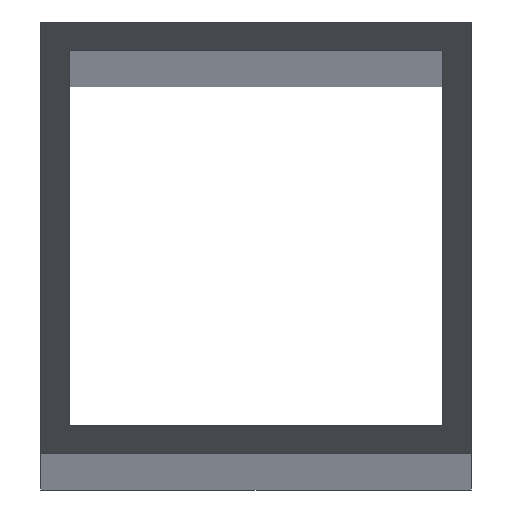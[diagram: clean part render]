
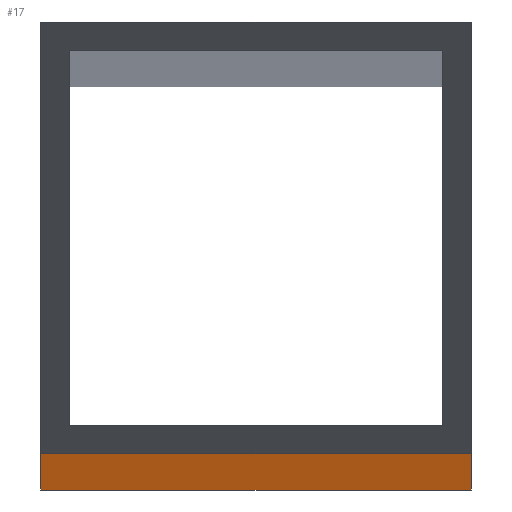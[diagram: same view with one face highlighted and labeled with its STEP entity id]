
A CAD part, top view. The second image highlights one B-rep face of the part: STEP entity #17.
In plain terms, the highlighted planar face has unit normal (0, -1, 0).
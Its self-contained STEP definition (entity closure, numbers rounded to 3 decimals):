
#17 = ADVANCED_FACE('',(#18),#32,.F.);
#18 = FACE_BOUND('',#19,.F.);
#19 = EDGE_LOOP('',(#20,#53,#81,#107));
#20 = ORIENTED_EDGE('',*,*,#21,.F.);
#21 = EDGE_CURVE('',#22,#24,#26,.T.);
#22 = VERTEX_POINT('',#23);
#23 = CARTESIAN_POINT('',(-30.,-30.,-47.032));
#24 = VERTEX_POINT('',#25);
#25 = CARTESIAN_POINT('',(30.,-30.,-47.032));
#26 = SURFACE_CURVE('',#27,(#31,#42),.PCURVE_S1.);
#27 = LINE('',#28,#29);
#28 = CARTESIAN_POINT('',(-15.,-30.,-47.032));
#29 = VECTOR('',#30,1.);
#30 = DIRECTION('',(1.,0.,-0.));
#31 = PCURVE('',#32,#37);
#32 = PLANE('',#33);
#33 = AXIS2_PLACEMENT_3D('',#34,#35,#36);
#34 = CARTESIAN_POINT('',(-30.,-30.,-60.));
#35 = DIRECTION('',(0.,1.,0.));
#36 = DIRECTION('',(1.,0.,0.));
#37 = DEFINITIONAL_REPRESENTATION('',(#38),#41);
#38 = B_SPLINE_CURVE_WITH_KNOTS('',1,(#39,#40),.UNSPECIFIED.,.F.,.F.,(2,
    2),(-15.,45.),.PIECEWISE_BEZIER_KNOTS.);
#39 = CARTESIAN_POINT('',(0.,-12.968));
#40 = CARTESIAN_POINT('',(60.,-12.968));
#41 = ( GEOMETRIC_REPRESENTATION_CONTEXT(2) 
PARAMETRIC_REPRESENTATION_CONTEXT() REPRESENTATION_CONTEXT('2D SPACE',''
  ) );
#42 = PCURVE('',#43,#48);
#43 = PLANE('',#44);
#44 = AXIS2_PLACEMENT_3D('',#45,#46,#47);
#45 = CARTESIAN_POINT('',(0.,-0.,0.));
#46 = DIRECTION('',(0.,-0.843,0.538));
#47 = DIRECTION('',(0.,-0.538,-0.843));
#48 = DEFINITIONAL_REPRESENTATION('',(#49),#52);
#49 = B_SPLINE_CURVE_WITH_KNOTS('',1,(#50,#51),.UNSPECIFIED.,.F.,.F.,(2,
    2),(-15.,45.),.PIECEWISE_BEZIER_KNOTS.);
#50 = CARTESIAN_POINT('',(55.786,-30.));
#51 = CARTESIAN_POINT('',(55.786,30.));
#52 = ( GEOMETRIC_REPRESENTATION_CONTEXT(2) 
PARAMETRIC_REPRESENTATION_CONTEXT() REPRESENTATION_CONTEXT('2D SPACE',''
  ) );
#53 = ORIENTED_EDGE('',*,*,#54,.T.);
#54 = EDGE_CURVE('',#22,#55,#57,.T.);
#55 = VERTEX_POINT('',#56);
#56 = CARTESIAN_POINT('',(-30.,-30.,2835.224));
#57 = SURFACE_CURVE('',#58,(#62,#69),.PCURVE_S1.);
#58 = LINE('',#59,#60);
#59 = CARTESIAN_POINT('',(-30.,-30.,-60.));
#60 = VECTOR('',#61,1.);
#61 = DIRECTION('',(0.,0.,1.));
#62 = PCURVE('',#32,#63);
#63 = DEFINITIONAL_REPRESENTATION('',(#64),#68);
#64 = LINE('',#65,#66);
#65 = CARTESIAN_POINT('',(0.,0.));
#66 = VECTOR('',#67,1.);
#67 = DIRECTION('',(0.,-1.));
#68 = ( GEOMETRIC_REPRESENTATION_CONTEXT(2) 
PARAMETRIC_REPRESENTATION_CONTEXT() REPRESENTATION_CONTEXT('2D SPACE',''
  ) );
#69 = PCURVE('',#70,#75);
#70 = PLANE('',#71);
#71 = AXIS2_PLACEMENT_3D('',#72,#73,#74);
#72 = CARTESIAN_POINT('',(-30.,30.,-60.));
#73 = DIRECTION('',(1.,0.,-0.));
#74 = DIRECTION('',(0.,-1.,0.));
#75 = DEFINITIONAL_REPRESENTATION('',(#76),#80);
#76 = LINE('',#77,#78);
#77 = CARTESIAN_POINT('',(60.,0.));
#78 = VECTOR('',#79,1.);
#79 = DIRECTION('',(0.,-1.));
#80 = ( GEOMETRIC_REPRESENTATION_CONTEXT(2) 
PARAMETRIC_REPRESENTATION_CONTEXT() REPRESENTATION_CONTEXT('2D SPACE',''
  ) );
#81 = ORIENTED_EDGE('',*,*,#82,.F.);
#82 = EDGE_CURVE('',#83,#55,#85,.T.);
#83 = VERTEX_POINT('',#84);
#84 = CARTESIAN_POINT('',(30.,-30.,2835.224));
#85 = SURFACE_CURVE('',#86,(#90,#96),.PCURVE_S1.);
#86 = LINE('',#87,#88);
#87 = CARTESIAN_POINT('',(-15.,-30.,2835.224));
#88 = VECTOR('',#89,1.);
#89 = DIRECTION('',(-1.,0.,0.));
#90 = PCURVE('',#32,#91);
#91 = DEFINITIONAL_REPRESENTATION('',(#92),#95);
#92 = B_SPLINE_CURVE_WITH_KNOTS('',1,(#93,#94),.UNSPECIFIED.,.F.,.F.,(2,
    2),(-45.,15.),.PIECEWISE_BEZIER_KNOTS.);
#93 = CARTESIAN_POINT('',(60.,-2895.224));
#94 = CARTESIAN_POINT('',(0.,-2895.224));
#95 = ( GEOMETRIC_REPRESENTATION_CONTEXT(2) 
PARAMETRIC_REPRESENTATION_CONTEXT() REPRESENTATION_CONTEXT('2D SPACE',''
  ) );
#96 = PCURVE('',#97,#102);
#97 = PLANE('',#98);
#98 = AXIS2_PLACEMENT_3D('',#99,#100,#101);
#99 = CARTESIAN_POINT('',(-0.,-1306.789,833.548));
#100 = DIRECTION('',(0.,0.843,-0.538));
#101 = DIRECTION('',(0.,0.538,0.843));
#102 = DEFINITIONAL_REPRESENTATION('',(#103),#106);
#103 = B_SPLINE_CURVE_WITH_KNOTS('',1,(#104,#105),.UNSPECIFIED.,.F.,.F.,
  (2,2),(-45.,15.),.PIECEWISE_BEZIER_KNOTS.);
#104 = CARTESIAN_POINT('',(2374.214,30.));
#105 = CARTESIAN_POINT('',(2374.214,-30.));
#106 = ( GEOMETRIC_REPRESENTATION_CONTEXT(2) 
PARAMETRIC_REPRESENTATION_CONTEXT() REPRESENTATION_CONTEXT('2D SPACE',''
  ) );
#107 = ORIENTED_EDGE('',*,*,#108,.F.);
#108 = EDGE_CURVE('',#24,#83,#109,.T.);
#109 = SURFACE_CURVE('',#110,(#114,#121),.PCURVE_S1.);
#110 = LINE('',#111,#112);
#111 = CARTESIAN_POINT('',(30.,-30.,-60.));
#112 = VECTOR('',#113,1.);
#113 = DIRECTION('',(0.,0.,1.));
#114 = PCURVE('',#32,#115);
#115 = DEFINITIONAL_REPRESENTATION('',(#116),#120);
#116 = LINE('',#117,#118);
#117 = CARTESIAN_POINT('',(60.,0.));
#118 = VECTOR('',#119,1.);
#119 = DIRECTION('',(0.,-1.));
#120 = ( GEOMETRIC_REPRESENTATION_CONTEXT(2) 
PARAMETRIC_REPRESENTATION_CONTEXT() REPRESENTATION_CONTEXT('2D SPACE',''
  ) );
#121 = PCURVE('',#122,#127);
#122 = PLANE('',#123);
#123 = AXIS2_PLACEMENT_3D('',#124,#125,#126);
#124 = CARTESIAN_POINT('',(30.,-30.,-60.));
#125 = DIRECTION('',(-1.,0.,0.));
#126 = DIRECTION('',(0.,1.,0.));
#127 = DEFINITIONAL_REPRESENTATION('',(#128),#132);
#128 = LINE('',#129,#130);
#129 = CARTESIAN_POINT('',(0.,0.));
#130 = VECTOR('',#131,1.);
#131 = DIRECTION('',(0.,-1.));
#132 = ( GEOMETRIC_REPRESENTATION_CONTEXT(2) 
PARAMETRIC_REPRESENTATION_CONTEXT() REPRESENTATION_CONTEXT('2D SPACE',''
  ) );
